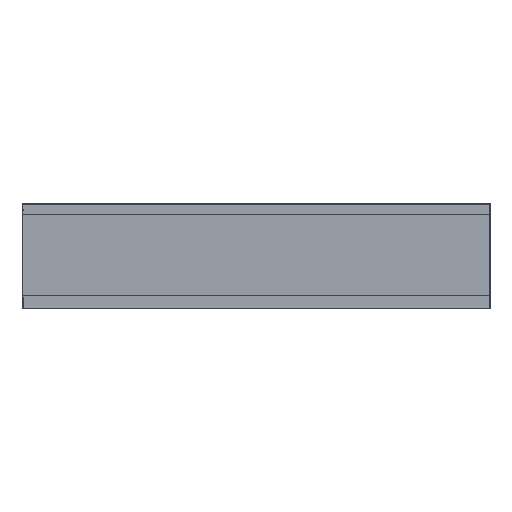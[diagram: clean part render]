
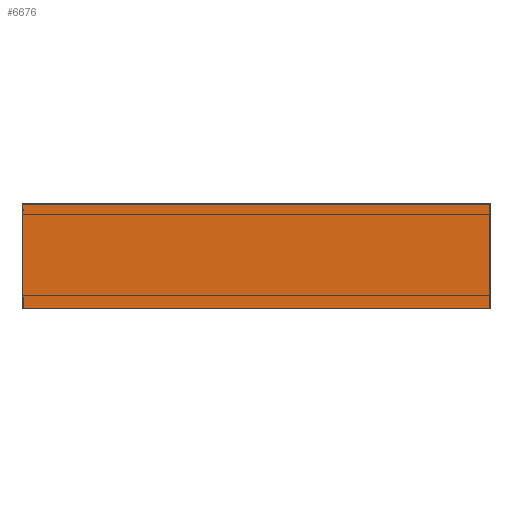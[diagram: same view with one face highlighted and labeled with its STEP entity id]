
A CAD part, left-side view. The second image highlights one B-rep face of the part: STEP entity #6676.
In plain terms, the highlighted planar face has unit normal (-1, 0, 0).
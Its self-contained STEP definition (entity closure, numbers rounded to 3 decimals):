
#360=FACE_OUTER_BOUND('',#699,.T.);
#699=EDGE_LOOP('',(#5451,#5452,#5453,#5454));
#1361=LINE('',#10123,#2209);
#1505=LINE('',#10449,#2353);
#1506=LINE('',#10450,#2354);
#1507=LINE('',#10451,#2355);
#2209=VECTOR('',#8166,304.8);
#2353=VECTOR('',#8448,304.8);
#2354=VECTOR('',#8449,304.8);
#2355=VECTOR('',#8450,304.8);
#2892=VERTEX_POINT('',#9955);
#2975=VERTEX_POINT('',#10121);
#3087=VERTEX_POINT('',#10447);
#3088=VERTEX_POINT('',#10448);
#3775=EDGE_CURVE('',#2892,#2975,#1361,.T.);
#3937=EDGE_CURVE('',#3087,#3088,#1505,.T.);
#3938=EDGE_CURVE('',#2892,#3087,#1506,.T.);
#3939=EDGE_CURVE('',#3088,#2975,#1507,.T.);
#5451=ORIENTED_EDGE('',*,*,#3937,.F.);
#5452=ORIENTED_EDGE('',*,*,#3938,.F.);
#5453=ORIENTED_EDGE('',*,*,#3775,.T.);
#5454=ORIENTED_EDGE('',*,*,#3939,.F.);
#6376=PLANE('',#7097);
#6676=ADVANCED_FACE('',(#360),#6376,.T.);
#7097=AXIS2_PLACEMENT_3D('',#10446,#8446,#8447);
#8166=DIRECTION('',(0.,0.,-1.));
#8446=DIRECTION('center_axis',(-1.,0.,0.));
#8447=DIRECTION('ref_axis',(0.,-1.,0.));
#8448=DIRECTION('',(0.,0.,-1.));
#8449=DIRECTION('',(0.,-1.,0.));
#8450=DIRECTION('',(0.,1.,0.));
#9955=CARTESIAN_POINT('',(-20.,20.,70.));
#10121=CARTESIAN_POINT('',(-20.,20.,0.));
#10123=CARTESIAN_POINT('',(-20.,20.,69.952));
#10446=CARTESIAN_POINT('Origin',(-20.,20.,0.));
#10447=CARTESIAN_POINT('',(-20.,-290.,70.));
#10448=CARTESIAN_POINT('',(-20.,-290.,0.));
#10449=CARTESIAN_POINT('',(-20.,-290.,70.));
#10450=CARTESIAN_POINT('',(-20.,20.,70.));
#10451=CARTESIAN_POINT('',(-20.,-290.,0.));
